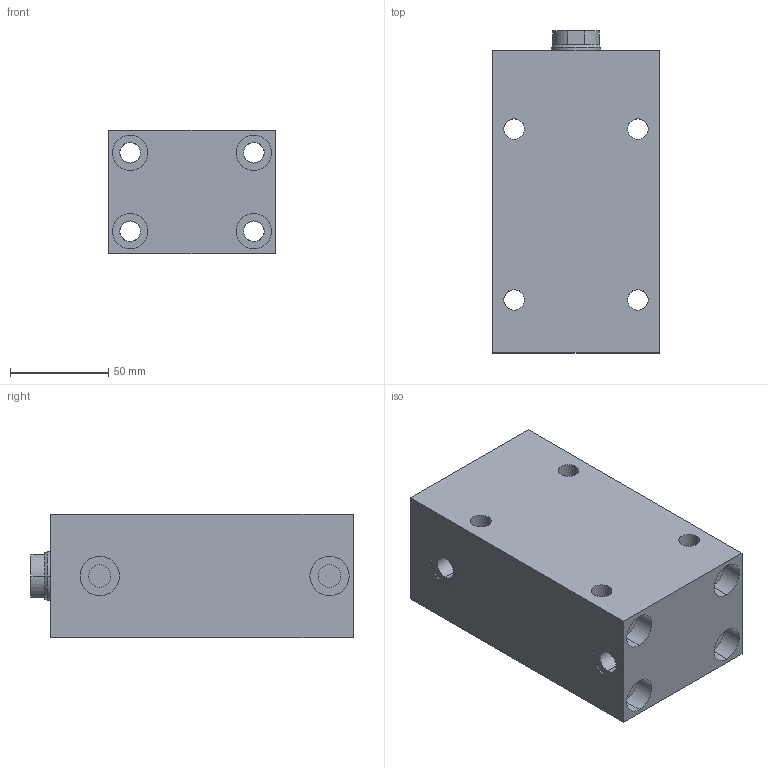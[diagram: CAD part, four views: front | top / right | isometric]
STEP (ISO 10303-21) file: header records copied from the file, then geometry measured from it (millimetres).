
FILE_DESCRIPTION (( 'STEP AP203' ), '1' );
FILE_NAME ('GERMA_Blockzylinder_600-040-100.STEP', '2016-04-06T15:53:16', ( '' ), ( '' ), 'SwSTEP 2.0', 'SolidWorks 2015', '' );
FILE_SCHEMA (( 'CONFIG_CONTROL_DESIGN' ));
Length unit declared in the file: millimetre
Products named in the file (3): GH-600-040_GH-600-040-100; Kolben 60x-040_Kolben DU.40-Hub100-IG; GERMA_Blockzylinder_600-040-100
Assembly tree (2 placements, depth 2):
  GERMA_Blockzylinder_600-040-100
    GH-600-040_GH-600-040-100
    Kolben 60x-040_Kolben DU.40-Hub100-IG
Bounding box: 85 x 164 x 63 mm (x, y, z)
Volume: 660703.8 mm3; surface area: 118053.1 mm2
Topology: 2 solids, 2 shells, 137 faces, 328 edges, 194 vertices
Faces by surface type: cylinder 93, plane 30, cone 14
Entity records: 4262 total; most frequent: CARTESIAN_POINT 850, DIRECTION 675, ORIENTED_EDGE 644, EDGE_CURVE 322, AXIS2_PLACEMENT_3D 275, VERTEX_POINT 194, EDGE_LOOP 174, FACE_OUTER_BOUND 137
